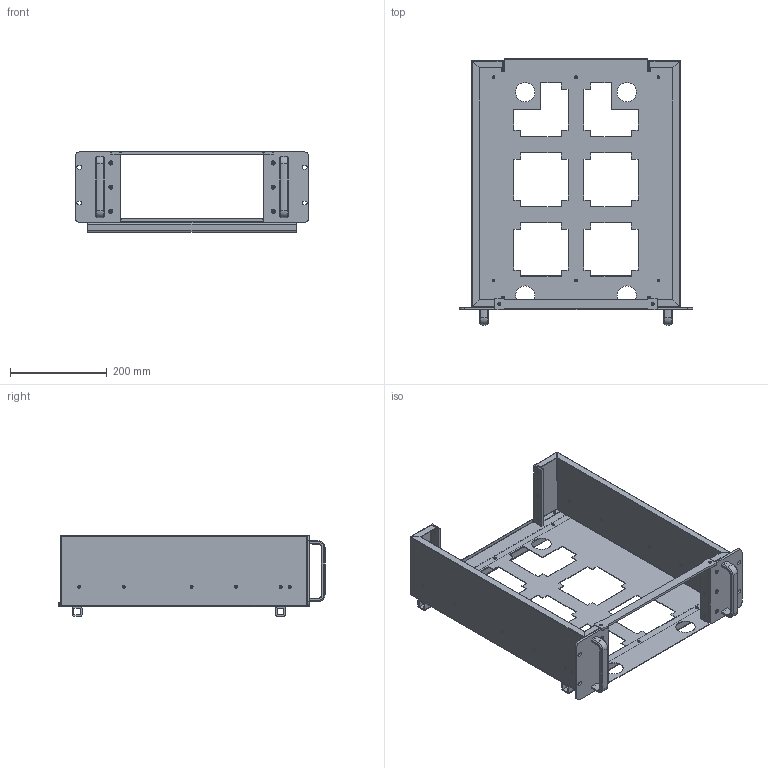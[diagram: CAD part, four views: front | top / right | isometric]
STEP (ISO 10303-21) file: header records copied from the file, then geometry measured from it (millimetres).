
FILE_DESCRIPTION (( 'STEP AP203' ), '1' );
FILE_NAME ('ACC-ALX3000RT REV1.0 assy.STEP', '2026-06-08T06:58:18', ( 'admin' ), ( '' ), 'SwSTEP 2.0', 'SolidWorks 2012', '' );
FILE_SCHEMA (( 'CONFIG_CONTROL_DESIGN' ));
Length unit declared in the file: millimetre
Products named in the file (14): BKT-ALX3000RT-L; BKT-ALX3000RT-R; HND-BYCO120-BK; BLT-M4X8SF; BLT-M3X8LM; ACC-ALX3000RT REV1.0 assy; BLT-M3X6LM; BLT-M3X6LR; BLT-M4X10LFW; PLT-ALX3000RT-R; PLT-ALX3000RT-F; FRM-ALX3000RT; BKT-ALX3000RT-T; CAS-ALX3000RT
Assembly tree (50 placements, depth 2):
  ACC-ALX3000RT REV1.0 assy
    CAS-ALX3000RT
    PLT-ALX3000RT-F  x2
    PLT-ALX3000RT-R  x2
    FRM-ALX3000RT  x2
    BKT-ALX3000RT-T
    BKT-ALX3000RT-R
    BKT-ALX3000RT-L
    HND-BYCO120-BK  x2
    BLT-M4X8SF  x4
    BLT-M4X10LFW  x6
    BLT-M3X6LR  x2
    BLT-M3X6LM  x14
    BLT-M3X8LM  x12
Bounding box: 482.5 x 549.62 x 166.2 mm (x, y, z)
Volume: 880684.8 mm3; surface area: 985810.7 mm2
Topology: 50 solids, 50 shells, 1657 faces, 4024 edges, 2548 vertices
Faces by surface type: plane 842, cylinder 550, cone 240, torus 20, sphere 5
Entity records: 27865 total; most frequent: DIRECTION 4646, CARTESIAN_POINT 4327, ORIENTED_EDGE 4162, EDGE_CURVE 2081, AXIS2_PLACEMENT_3D 1697, VERTEX_POINT 1330, LINE 1252, VECTOR 1252
